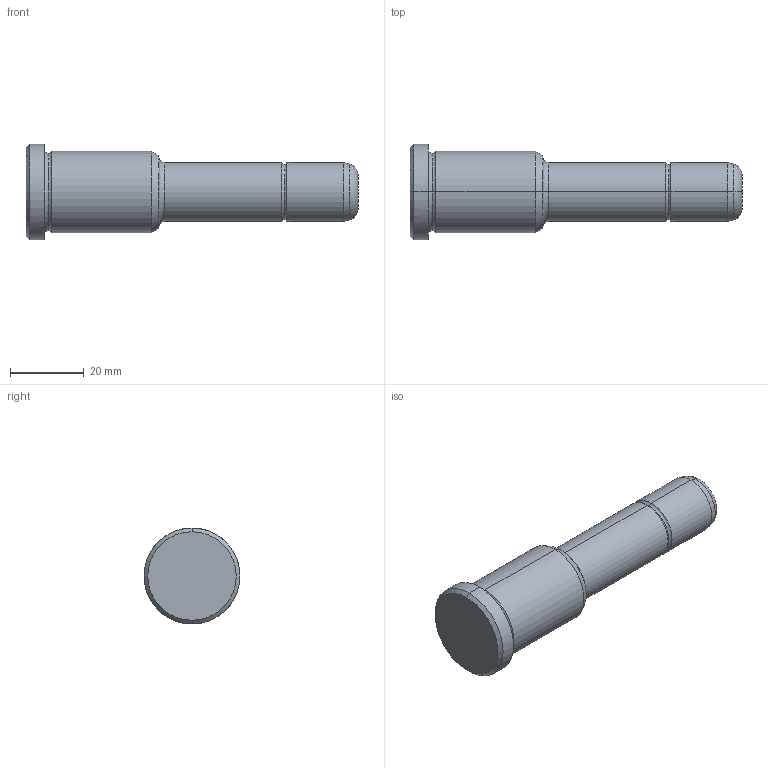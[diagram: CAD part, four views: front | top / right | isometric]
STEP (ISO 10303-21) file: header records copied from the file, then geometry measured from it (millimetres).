
FILE_DESCRIPTION(('CATIA V5 STEP Exchange'),'2;1');
FILE_NAME('C:\Users\Utente\Desktop\IO LAVORO\3D X SITO CF\X SITO\PLASTICA\351\351-16X36X90.stp','2021-08-18T11:37:53+00:00',('none'),('none'),'CATIA Version 5 Release 20 GA (IN-10)','CATIA V5 STEP AP203','none');
FILE_SCHEMA(('CONFIG_CONTROL_DESIGN'));
Length unit declared in the file: millimetre
Products named in the file (1): 351-16X36X90
Bounding box: 90 x 26 x 26 mm (x, y, z)
Volume: 24984.6 mm3; surface area: 6130.3 mm2
Topology: 1 solids, 1 shells, 30 faces, 86 edges, 60 vertices
Faces by surface type: torus 12, cylinder 8, cone 6, plane 4
Entity records: 1112 total; most frequent: CARTESIAN_POINT 289, ORIENTED_EDGE 172, DIRECTION 138, AXIS2_PLACEMENT_3D 95, EDGE_CURVE 86, CIRCLE 64, VERTEX_POINT 60, EDGE_LOOP 32
